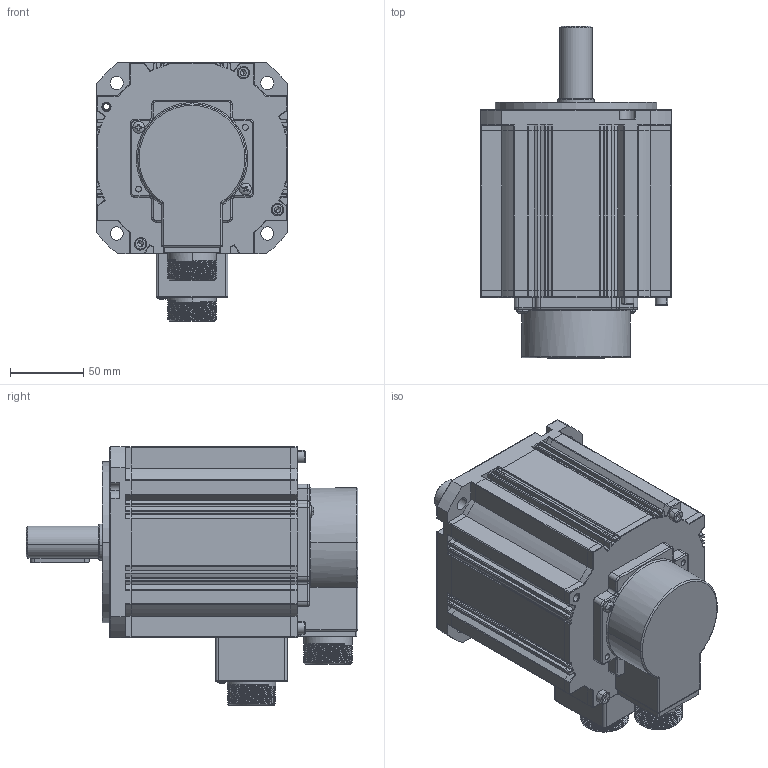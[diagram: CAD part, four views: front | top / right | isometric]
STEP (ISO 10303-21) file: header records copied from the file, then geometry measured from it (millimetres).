
FILE_DESCRIPTION (( 'STEP AP203' ), '1' );
FILE_NAME ('BMR-G24C13020-ÎÞ±§Õ¢.STEP', '2024-03-12T02:12:33', ( '' ), ( '' ), 'SwSTEP 2.0', 'SolidWorks 2018', '' );
FILE_SCHEMA (( 'CONFIG_CONTROL_DESIGN' ));
Length unit declared in the file: millimetre
Products named in the file (17): hexagon socket head cap screws gb_GB_FASTENER_SCREWS_HSHCS M5X20-N; deep groove ball bearings gb_Rolling bearings 6205 GB 276-94; BMR-G24C13020-拸惕掅; 瑤脣窒煦; 綴傷裔; jike; cross recessed pan head screws gb_GB_CROSS_SCREWS_TYPE1 M4X12-12  H type-N; 盓傅啣; 晤鎢ん; 粣; 脣釱1; 晤鎢欶裔; cross recessed pan head screws gb_GB_CROSS_SCREWS_TYPE1 M3X12-12  H type-N; 蛌赽軞傖; ヶ傷裔; 瑤脣裔; deep groove ball bearings gb_Rolling bearings 6204 GB 276-94
Assembly tree (21 placements, depth 3):
  BMR-G24C13020-拸惕掅
    jike
    瑤脣窒煦
      瑤脣裔
      脣釱1
      盓傅啣
    ヶ傷裔
    綴傷裔
    晤鎢欶裔
    脣釱1
    hexagon socket head cap screws gb_GB_FASTENER_SCREWS_HSHCS M5X20-N  x4
    cross recessed pan head screws gb_GB_CROSS_SCREWS_TYPE1 M4X12-12  H type-N  x2
    cross recessed pan head screws gb_GB_CROSS_SCREWS_TYPE1 M3X12-12  H type-N
    蛌赽軞傖
      粣
      deep groove ball bearings gb_Rolling bearings 6205 GB 276-94
      deep groove ball bearings gb_Rolling bearings 6204 GB 276-94
    晤鎢ん
Bounding box: 130 x 226 x 176 mm (x, y, z)
Volume: 889568.1 mm3; surface area: 351574.1 mm2
Topology: 19 solids, 19 shells, 2242 faces, 6107 edges, 3851 vertices
Faces by surface type: cylinder 969, plane 646, torus 377, bspline 120, sphere 88, cone 42
Entity records: 76469 total; most frequent: CARTESIAN_POINT 24304, ORIENTED_EDGE 10832, DIRECTION 10519, EDGE_CURVE 5416, AXIS2_PLACEMENT_3D 4198, VERTEX_POINT 3413, CIRCLE 2252, EDGE_LOOP 2197
